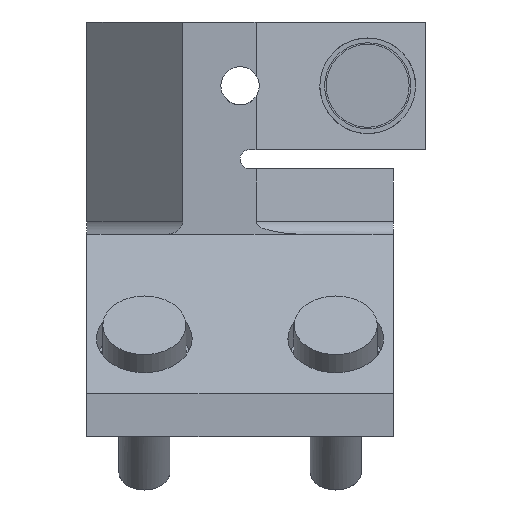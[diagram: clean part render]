
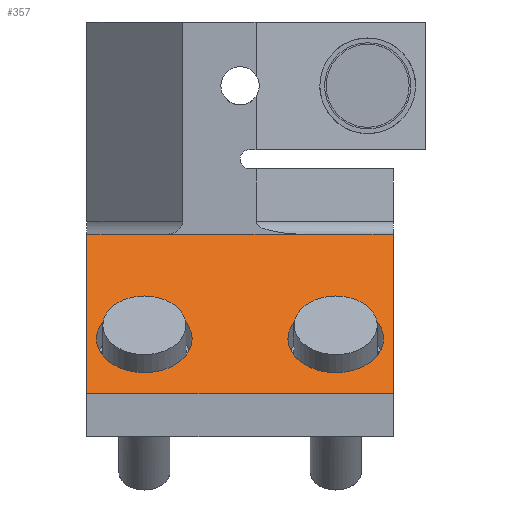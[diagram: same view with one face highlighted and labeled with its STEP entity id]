
A CAD part, front view. The second image highlights one B-rep face of the part: STEP entity #357.
In plain terms, the highlighted planar face has unit normal (0, -0.707, 0.707).
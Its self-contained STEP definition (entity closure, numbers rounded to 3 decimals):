
#357=ADVANCED_FACE('Copy of Solid.799136',(#828,#829,#830),#831,.F.);
#828=FACE_OUTER_BOUND('',#1423,.T.);
#829=FACE_BOUND('',#1424,.T.);
#830=FACE_BOUND('',#1425,.T.);
#831=PLANE('',#1426);
#1423=EDGE_LOOP('',(#2511,#2512,#2513,#2514,#2515,#2516,#2517,#2518));
#1424=EDGE_LOOP('',(#2519,#2520,#2521,#2522));
#1425=EDGE_LOOP('',(#2523,#2524,#2525,#2526));
#1426=AXIS2_PLACEMENT_3D('',#2527,#2528,#2529);
#2511=ORIENTED_EDGE('',*,*,#3820,.T.);
#2512=ORIENTED_EDGE('',*,*,#3788,.T.);
#2513=ORIENTED_EDGE('',*,*,#3821,.F.);
#2514=ORIENTED_EDGE('',*,*,#3737,.F.);
#2515=ORIENTED_EDGE('',*,*,#3818,.T.);
#2516=ORIENTED_EDGE('',*,*,#3753,.T.);
#2517=ORIENTED_EDGE('',*,*,#3752,.T.);
#2518=ORIENTED_EDGE('',*,*,#3751,.T.);
#2519=ORIENTED_EDGE('',*,*,#3537,.T.);
#2520=ORIENTED_EDGE('',*,*,#3822,.T.);
#2521=ORIENTED_EDGE('',*,*,#3823,.T.);
#2522=ORIENTED_EDGE('',*,*,#3534,.T.);
#2523=ORIENTED_EDGE('',*,*,#3824,.T.);
#2524=ORIENTED_EDGE('',*,*,#3529,.T.);
#2525=ORIENTED_EDGE('',*,*,#3523,.T.);
#2526=ORIENTED_EDGE('',*,*,#3825,.T.);
#2527=CARTESIAN_POINT('',(0.0,-19.0,51.711));
#2528=DIRECTION('',(0.0,0.707,-0.707));
#2529=DIRECTION('',(0.0,-0.707,-0.707));
#3523=EDGE_CURVE('',#4220,#4217,#4221,.T.);
#3529=EDGE_CURVE('',#4227,#4220,#4230,.T.);
#3534=EDGE_CURVE('',#4233,#4237,#4239,.T.);
#3537=EDGE_CURVE('',#4237,#4241,#4244,.T.);
#3737=EDGE_CURVE('',#4564,#4566,#4567,.T.);
#3751=EDGE_CURVE('',#4590,#4591,#4592,.F.);
#3752=EDGE_CURVE('',#4593,#4590,#4594,.T.);
#3753=EDGE_CURVE('',#4595,#4593,#4596,.F.);
#3788=EDGE_CURVE('',#4651,#4649,#4652,.T.);
#3818=EDGE_CURVE('',#4564,#4595,#4687,.T.);
#3820=EDGE_CURVE('',#4591,#4651,#4689,.T.);
#3821=EDGE_CURVE('',#4566,#4649,#4690,.T.);
#3822=EDGE_CURVE('',#4241,#4691,#4692,.T.);
#3823=EDGE_CURVE('',#4691,#4233,#4693,.T.);
#3824=EDGE_CURVE('',#4694,#4227,#4695,.T.);
#3825=EDGE_CURVE('',#4217,#4694,#4696,.T.);
#4217=VERTEX_POINT('',#5199);
#4220=VERTEX_POINT('',#5203);
#4221=CIRCLE('',#5204,7.5);
#4227=VERTEX_POINT('',#5211);
#4230=CIRCLE('',#5215,7.5);
#4233=VERTEX_POINT('',#5218);
#4237=VERTEX_POINT('',#5223);
#4239=CIRCLE('',#5226,7.5);
#4241=VERTEX_POINT('',#5228);
#4244=CIRCLE('',#5232,7.5);
#4564=VERTEX_POINT('',#6005);
#4566=VERTEX_POINT('',#6008);
#4567=LINE('',#6009,#6010);
#4590=VERTEX_POINT('',#6044);
#4591=VERTEX_POINT('',#6045);
#4592=LINE('',#6046,#6047);
#4593=VERTEX_POINT('',#6048);
#4594=LINE('',#6049,#6050);
#4595=VERTEX_POINT('',#6051);
#4596=LINE('',#6052,#6053);
#4649=VERTEX_POINT('',#6240);
#4651=VERTEX_POINT('',#6243);
#4652=LINE('',#6244,#6245);
#4687=LINE('',#6331,#6332);
#4689=LINE('',#6334,#6335);
#4690=LINE('',#6336,#6337);
#4691=VERTEX_POINT('',#6338);
#4692=CIRCLE('',#6339,7.5);
#4693=CIRCLE('',#6340,7.5);
#4694=VERTEX_POINT('',#6341);
#4695=CIRCLE('',#6342,7.5);
#4696=CIRCLE('',#6343,7.5);
#5199=CARTESIAN_POINT('',(22.5,-35.355,35.355));
#5203=CARTESIAN_POINT('',(8.418,-32.813,37.898));
#5204=AXIS2_PLACEMENT_3D('',#6912,#6913,#6914);
#5211=CARTESIAN_POINT('',(7.5,-35.355,35.355));
#5215=AXIS2_PLACEMENT_3D('',#6923,#6924,#6925);
#5218=CARTESIAN_POINT('',(-22.5,-35.355,35.355));
#5223=CARTESIAN_POINT('',(-21.582,-32.813,37.898));
#5226=AXIS2_PLACEMENT_3D('',#6931,#6932,#6933);
#5228=CARTESIAN_POINT('',(-7.5,-35.355,35.355));
#5232=AXIS2_PLACEMENT_3D('',#6935,#6936,#6937);
#6005=CARTESIAN_POINT('',(24.0,-19.,51.711));
#6008=CARTESIAN_POINT('',(24.0,-44.0,26.711));
#6009=CARTESIAN_POINT('',(24.0,-31.5,39.211));
#6010=VECTOR('',#7181,1.0);
#6044=CARTESIAN_POINT('',(-9.,-19.0,51.711));
#6045=CARTESIAN_POINT('',(-11.828,-19.,51.711));
#6046=CARTESIAN_POINT('',(-10.414,-19.0,51.711));
#6047=VECTOR('',#7193,1.0);
#6048=CARTESIAN_POINT('',(2.501,-19.0,51.711));
#6049=CARTESIAN_POINT('',(-3.249,-19.0,51.711));
#6050=VECTOR('',#7194,1.0);
#6051=CARTESIAN_POINT('',(10.229,-19.,51.711));
#6052=CARTESIAN_POINT('',(6.365,-19.0,51.711));
#6053=VECTOR('',#7195,1.0);
#6240=CARTESIAN_POINT('',(-24.0,-44.0,26.711));
#6243=CARTESIAN_POINT('',(-24.0,-19.,51.711));
#6244=CARTESIAN_POINT('',(-24.0,-31.5,39.211));
#6245=VECTOR('',#7223,1.0);
#6331=CARTESIAN_POINT('',(17.114,-19.,51.711));
#6332=VECTOR('',#7253,1.0);
#6334=CARTESIAN_POINT('',(-17.914,-19.,51.711));
#6335=VECTOR('',#7254,1.0);
#6336=CARTESIAN_POINT('',(0.0,-44.0,26.711));
#6337=VECTOR('',#7255,1.0);
#6338=CARTESIAN_POINT('',(-8.418,-37.898,32.813));
#6339=AXIS2_PLACEMENT_3D('',#7256,#7257,#7258);
#6340=AXIS2_PLACEMENT_3D('',#7259,#7260,#7261);
#6341=CARTESIAN_POINT('',(21.582,-37.898,32.813));
#6342=AXIS2_PLACEMENT_3D('',#7262,#7263,#7264);
#6343=AXIS2_PLACEMENT_3D('',#7265,#7266,#7267);
#6912=CARTESIAN_POINT('',(15.0,-35.355,35.355));
#6913=DIRECTION('',(0.0,0.707,-0.707));
#6914=DIRECTION('',(0.0,-0.707,-0.707));
#6923=CARTESIAN_POINT('',(15.0,-35.355,35.355));
#6924=DIRECTION('',(0.0,0.707,-0.707));
#6925=DIRECTION('',(0.0,-0.707,-0.707));
#6931=CARTESIAN_POINT('',(-15.0,-35.355,35.355));
#6932=DIRECTION('',(0.0,0.707,-0.707));
#6933=DIRECTION('',(0.0,-0.707,-0.707));
#6935=CARTESIAN_POINT('',(-15.0,-35.355,35.355));
#6936=DIRECTION('',(0.0,0.707,-0.707));
#6937=DIRECTION('',(0.0,-0.707,-0.707));
#7181=DIRECTION('',(0.0,-0.707,-0.707));
#7193=DIRECTION('',(1.0,0.0,0.0));
#7194=DIRECTION('',(-1.0,0.0,0.0));
#7195=DIRECTION('',(1.0,0.0,0.0));
#7223=DIRECTION('',(0.0,-0.707,-0.707));
#7253=DIRECTION('',(-1.0,0.0,0.0));
#7254=DIRECTION('',(-1.0,0.0,0.0));
#7255=DIRECTION('',(-1.0,0.0,0.0));
#7256=CARTESIAN_POINT('',(-15.0,-35.355,35.355));
#7257=DIRECTION('',(0.0,0.707,-0.707));
#7258=DIRECTION('',(0.0,-0.707,-0.707));
#7259=CARTESIAN_POINT('',(-15.0,-35.355,35.355));
#7260=DIRECTION('',(0.0,0.707,-0.707));
#7261=DIRECTION('',(0.0,-0.707,-0.707));
#7262=CARTESIAN_POINT('',(15.0,-35.355,35.355));
#7263=DIRECTION('',(0.0,0.707,-0.707));
#7264=DIRECTION('',(0.0,-0.707,-0.707));
#7265=CARTESIAN_POINT('',(15.0,-35.355,35.355));
#7266=DIRECTION('',(0.0,0.707,-0.707));
#7267=DIRECTION('',(0.0,-0.707,-0.707));
